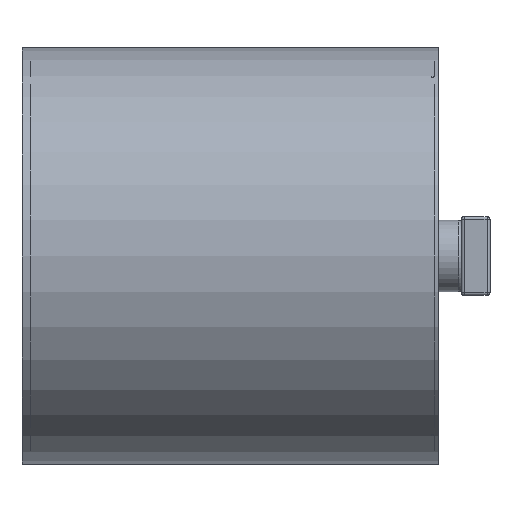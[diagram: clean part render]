
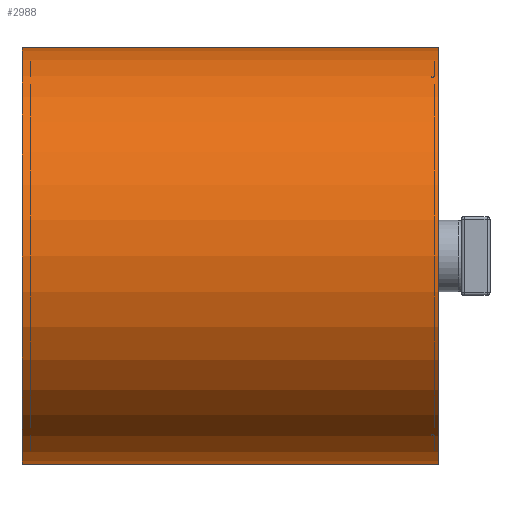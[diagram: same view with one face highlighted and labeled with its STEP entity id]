
A CAD part, left-side view. The second image highlights one B-rep face of the part: STEP entity #2988.
In plain terms, the highlighted cylindrical face has radius 145 mm (diameter 290 mm), a full revolution.
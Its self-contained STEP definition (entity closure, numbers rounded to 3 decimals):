
#384=LINE('',#11982,#549);
#549=VECTOR('',#4089,145.);
#668=CYLINDRICAL_SURFACE('',#3341,145.);
#846=FACE_OUTER_BOUND('',#1073,.T.);
#1073=EDGE_LOOP('',(#2562,#2563,#2564,#2565));
#1263=CIRCLE('',#3342,145.);
#1264=CIRCLE('',#3343,145.);
#1505=VERTEX_POINT('',#11979);
#1506=VERTEX_POINT('',#11981);
#1867=EDGE_CURVE('',#1505,#1505,#1263,.T.);
#1868=EDGE_CURVE('',#1505,#1506,#384,.T.);
#1869=EDGE_CURVE('',#1506,#1506,#1264,.T.);
#2562=ORIENTED_EDGE('',*,*,#1867,.F.);
#2563=ORIENTED_EDGE('',*,*,#1868,.T.);
#2564=ORIENTED_EDGE('',*,*,#1869,.T.);
#2565=ORIENTED_EDGE('',*,*,#1868,.F.);
#2988=ADVANCED_FACE('',(#846),#668,.T.);
#3341=AXIS2_PLACEMENT_3D('',#11978,#4085,#4086);
#3342=AXIS2_PLACEMENT_3D('',#11980,#4087,#4088);
#3343=AXIS2_PLACEMENT_3D('',#11983,#4090,#4091);
#4085=DIRECTION('center_axis',(0.,1.,0.));
#4086=DIRECTION('ref_axis',(1.,0.,0.));
#4087=DIRECTION('center_axis',(0.,1.,0.));
#4088=DIRECTION('ref_axis',(1.,0.,0.));
#4089=DIRECTION('',(0.,-1.,0.));
#4090=DIRECTION('center_axis',(0.,1.,0.));
#4091=DIRECTION('ref_axis',(1.,0.,0.));
#11978=CARTESIAN_POINT('Origin',(0.,0.,0.));
#11979=CARTESIAN_POINT('',(-145.,290.,0.));
#11980=CARTESIAN_POINT('Origin',(0.,290.,0.));
#11981=CARTESIAN_POINT('',(-145.,0.,0.));
#11982=CARTESIAN_POINT('',(-145.,0.,0.));
#11983=CARTESIAN_POINT('Origin',(0.,0.,0.));
